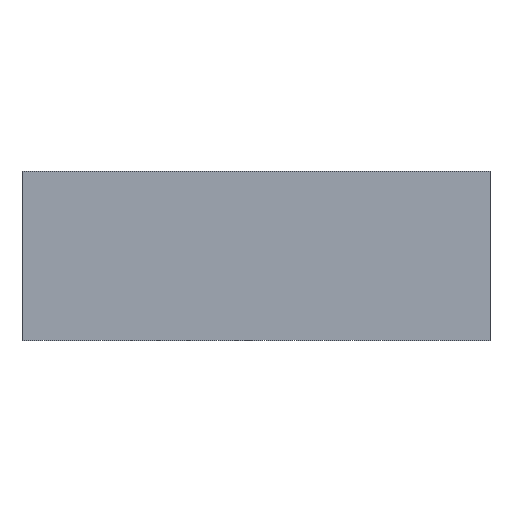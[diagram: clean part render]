
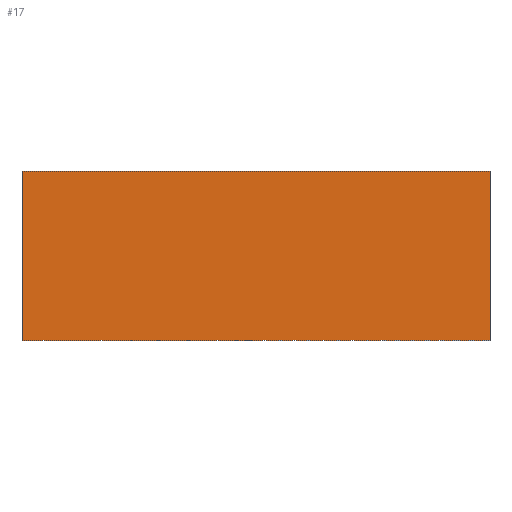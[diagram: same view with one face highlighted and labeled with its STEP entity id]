
A CAD part, front view. The second image highlights one B-rep face of the part: STEP entity #17.
In plain terms, the highlighted planar face has unit normal (0, -1, 0).
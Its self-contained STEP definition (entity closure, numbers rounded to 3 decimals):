
#17 = ADVANCED_FACE('',(#18),#32,.F.);
#18 = FACE_BOUND('',#19,.F.);
#19 = EDGE_LOOP('',(#20,#55,#83,#111));
#20 = ORIENTED_EDGE('',*,*,#21,.T.);
#21 = EDGE_CURVE('',#22,#24,#26,.T.);
#22 = VERTEX_POINT('',#23);
#23 = CARTESIAN_POINT('',(-9.,-9.,-6.5));
#24 = VERTEX_POINT('',#25);
#25 = CARTESIAN_POINT('',(-9.,-9.,0.));
#26 = SURFACE_CURVE('',#27,(#31,#43),.PCURVE_S1.);
#27 = LINE('',#28,#29);
#28 = CARTESIAN_POINT('',(-9.,-9.,-6.5));
#29 = VECTOR('',#30,1.);
#30 = DIRECTION('',(0.,0.,1.));
#31 = PCURVE('',#32,#37);
#32 = PLANE('',#33);
#33 = AXIS2_PLACEMENT_3D('',#34,#35,#36);
#34 = CARTESIAN_POINT('',(-9.,-9.,-6.5));
#35 = DIRECTION('',(0.,1.,0.));
#36 = DIRECTION('',(1.,0.,0.));
#37 = DEFINITIONAL_REPRESENTATION('',(#38),#42);
#38 = LINE('',#39,#40);
#39 = CARTESIAN_POINT('',(0.,0.));
#40 = VECTOR('',#41,1.);
#41 = DIRECTION('',(0.,-1.));
#42 = ( GEOMETRIC_REPRESENTATION_CONTEXT(2) 
PARAMETRIC_REPRESENTATION_CONTEXT() REPRESENTATION_CONTEXT('2D SPACE',''
  ) );
#43 = PCURVE('',#44,#49);
#44 = PLANE('',#45);
#45 = AXIS2_PLACEMENT_3D('',#46,#47,#48);
#46 = CARTESIAN_POINT('',(-9.,9.,-6.5));
#47 = DIRECTION('',(1.,0.,0.));
#48 = DIRECTION('',(0.,-1.,0.));
#49 = DEFINITIONAL_REPRESENTATION('',(#50),#54);
#50 = LINE('',#51,#52);
#51 = CARTESIAN_POINT('',(18.,0.));
#52 = VECTOR('',#53,1.);
#53 = DIRECTION('',(0.,-1.));
#54 = ( GEOMETRIC_REPRESENTATION_CONTEXT(2) 
PARAMETRIC_REPRESENTATION_CONTEXT() REPRESENTATION_CONTEXT('2D SPACE',''
  ) );
#55 = ORIENTED_EDGE('',*,*,#56,.T.);
#56 = EDGE_CURVE('',#24,#57,#59,.T.);
#57 = VERTEX_POINT('',#58);
#58 = CARTESIAN_POINT('',(9.,-9.,0.));
#59 = SURFACE_CURVE('',#60,(#64,#71),.PCURVE_S1.);
#60 = LINE('',#61,#62);
#61 = CARTESIAN_POINT('',(-9.,-9.,0.));
#62 = VECTOR('',#63,1.);
#63 = DIRECTION('',(1.,0.,0.));
#64 = PCURVE('',#32,#65);
#65 = DEFINITIONAL_REPRESENTATION('',(#66),#70);
#66 = LINE('',#67,#68);
#67 = CARTESIAN_POINT('',(0.,-6.5));
#68 = VECTOR('',#69,1.);
#69 = DIRECTION('',(1.,0.));
#70 = ( GEOMETRIC_REPRESENTATION_CONTEXT(2) 
PARAMETRIC_REPRESENTATION_CONTEXT() REPRESENTATION_CONTEXT('2D SPACE',''
  ) );
#71 = PCURVE('',#72,#77);
#72 = PLANE('',#73);
#73 = AXIS2_PLACEMENT_3D('',#74,#75,#76);
#74 = CARTESIAN_POINT('',(0.,0.,0.));
#75 = DIRECTION('',(0.,0.,1.));
#76 = DIRECTION('',(1.,0.,-0.));
#77 = DEFINITIONAL_REPRESENTATION('',(#78),#82);
#78 = LINE('',#79,#80);
#79 = CARTESIAN_POINT('',(-9.,-9.));
#80 = VECTOR('',#81,1.);
#81 = DIRECTION('',(1.,0.));
#82 = ( GEOMETRIC_REPRESENTATION_CONTEXT(2) 
PARAMETRIC_REPRESENTATION_CONTEXT() REPRESENTATION_CONTEXT('2D SPACE',''
  ) );
#83 = ORIENTED_EDGE('',*,*,#84,.F.);
#84 = EDGE_CURVE('',#85,#57,#87,.T.);
#85 = VERTEX_POINT('',#86);
#86 = CARTESIAN_POINT('',(9.,-9.,-6.5));
#87 = SURFACE_CURVE('',#88,(#92,#99),.PCURVE_S1.);
#88 = LINE('',#89,#90);
#89 = CARTESIAN_POINT('',(9.,-9.,-6.5));
#90 = VECTOR('',#91,1.);
#91 = DIRECTION('',(0.,0.,1.));
#92 = PCURVE('',#32,#93);
#93 = DEFINITIONAL_REPRESENTATION('',(#94),#98);
#94 = LINE('',#95,#96);
#95 = CARTESIAN_POINT('',(18.,0.));
#96 = VECTOR('',#97,1.);
#97 = DIRECTION('',(0.,-1.));
#98 = ( GEOMETRIC_REPRESENTATION_CONTEXT(2) 
PARAMETRIC_REPRESENTATION_CONTEXT() REPRESENTATION_CONTEXT('2D SPACE',''
  ) );
#99 = PCURVE('',#100,#105);
#100 = PLANE('',#101);
#101 = AXIS2_PLACEMENT_3D('',#102,#103,#104);
#102 = CARTESIAN_POINT('',(9.,-9.,-6.5));
#103 = DIRECTION('',(-1.,0.,0.));
#104 = DIRECTION('',(0.,1.,0.));
#105 = DEFINITIONAL_REPRESENTATION('',(#106),#110);
#106 = LINE('',#107,#108);
#107 = CARTESIAN_POINT('',(0.,0.));
#108 = VECTOR('',#109,1.);
#109 = DIRECTION('',(0.,-1.));
#110 = ( GEOMETRIC_REPRESENTATION_CONTEXT(2) 
PARAMETRIC_REPRESENTATION_CONTEXT() REPRESENTATION_CONTEXT('2D SPACE',''
  ) );
#111 = ORIENTED_EDGE('',*,*,#112,.F.);
#112 = EDGE_CURVE('',#22,#85,#113,.T.);
#113 = SURFACE_CURVE('',#114,(#118,#125),.PCURVE_S1.);
#114 = LINE('',#115,#116);
#115 = CARTESIAN_POINT('',(-9.,-9.,-6.5));
#116 = VECTOR('',#117,1.);
#117 = DIRECTION('',(1.,0.,0.));
#118 = PCURVE('',#32,#119);
#119 = DEFINITIONAL_REPRESENTATION('',(#120),#124);
#120 = LINE('',#121,#122);
#121 = CARTESIAN_POINT('',(0.,0.));
#122 = VECTOR('',#123,1.);
#123 = DIRECTION('',(1.,0.));
#124 = ( GEOMETRIC_REPRESENTATION_CONTEXT(2) 
PARAMETRIC_REPRESENTATION_CONTEXT() REPRESENTATION_CONTEXT('2D SPACE',''
  ) );
#125 = PCURVE('',#126,#131);
#126 = PLANE('',#127);
#127 = AXIS2_PLACEMENT_3D('',#128,#129,#130);
#128 = CARTESIAN_POINT('',(0.,0.,-6.5));
#129 = DIRECTION('',(0.,0.,1.));
#130 = DIRECTION('',(1.,0.,-0.));
#131 = DEFINITIONAL_REPRESENTATION('',(#132),#136);
#132 = LINE('',#133,#134);
#133 = CARTESIAN_POINT('',(-9.,-9.));
#134 = VECTOR('',#135,1.);
#135 = DIRECTION('',(1.,0.));
#136 = ( GEOMETRIC_REPRESENTATION_CONTEXT(2) 
PARAMETRIC_REPRESENTATION_CONTEXT() REPRESENTATION_CONTEXT('2D SPACE',''
  ) );
